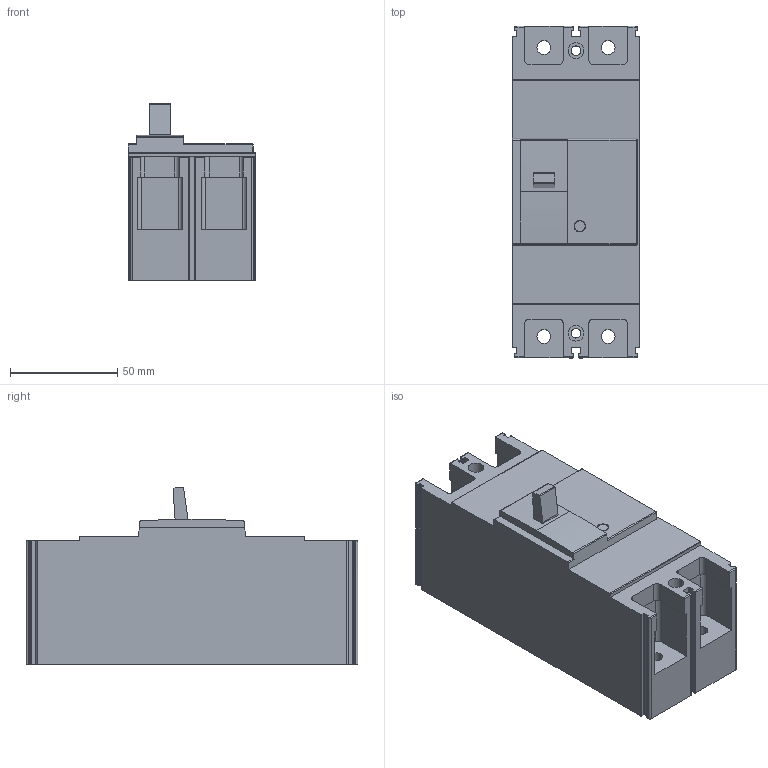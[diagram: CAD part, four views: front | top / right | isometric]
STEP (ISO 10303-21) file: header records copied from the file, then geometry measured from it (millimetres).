
FILE_DESCRIPTION (( 'STEP AP203' ), '1' );
FILE_NAME ('SMART 125AF 2P.STEP', '2018-01-04T00:49:11', ( '' ), ( '' ), 'SwSTEP 2.0', 'SolidWorks 2015', '' );
FILE_SCHEMA (( 'CONFIG_CONTROL_DESIGN' ));
Length unit declared in the file: millimetre
Products named in the file (1): SMART 125AF 2P
Bounding box: 59.6 x 155 x 83.06 mm (x, y, z)
Volume: 505494.9 mm3; surface area: 56002.4 mm2
Topology: 1 solids, 1 shells, 194 faces, 557 edges, 370 vertices
Faces by surface type: cylinder 96, plane 96, torus 2
Entity records: 6518 total; most frequent: CARTESIAN_POINT 1174, DIRECTION 1119, ORIENTED_EDGE 1114, EDGE_CURVE 557, AXIS2_PLACEMENT_3D 377, VERTEX_POINT 370, VECTOR 365, LINE 365
